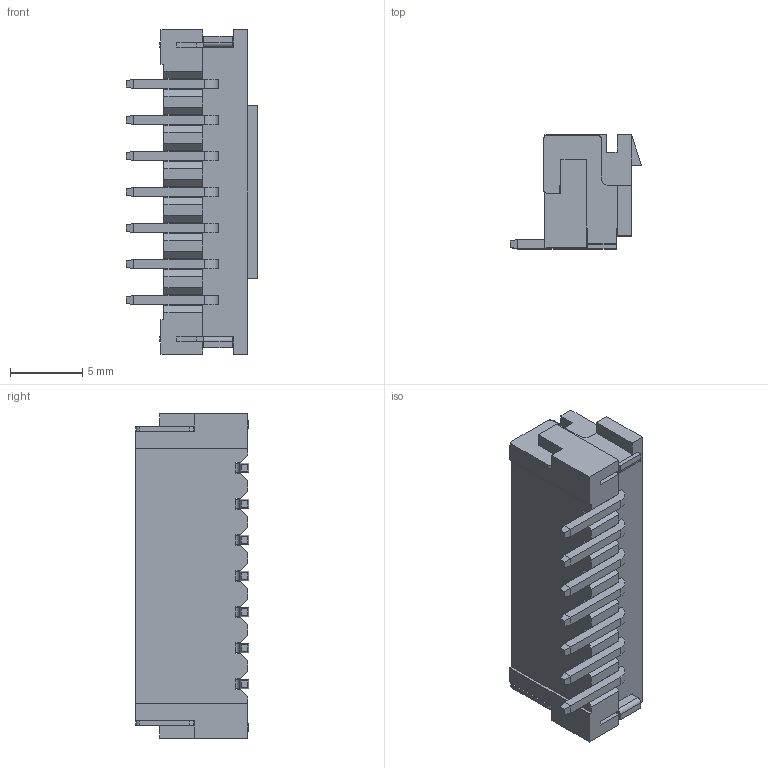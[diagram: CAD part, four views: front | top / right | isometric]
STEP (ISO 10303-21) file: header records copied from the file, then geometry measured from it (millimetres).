
FILE_DESCRIPTION(('CATIA V5 STEP Exchange'),'2;1');
FILE_NAME('Z:\3D文件\小覃\条形连接器-小黄\XHB\NALT\HC-XHB-7ALT-05(2.50 单排 立贴-HCTL).stp','2025-01-15T01:04:37+00:00',('none'),('none'),'CATIA Version 5 Release 20 GA (IN-10)','CATIA V5 STEP AP203','none');
FILE_SCHEMA(('CONFIG_CONTROL_DESIGN'));
Length unit declared in the file: millimetre
Products named in the file (1): 产品1
Assembly tree (10 placements, depth 2):
  产品1
    #58  x7
    #549
    #1374
    #2199
Bounding box: 9.1 x 7.9 x 22.5 mm (x, y, z)
Volume: 499.1 mm3; surface area: 1359.9 mm2
Topology: 10 solids, 10 shells, 316 faces, 830 edges, 534 vertices
Faces by surface type: plane 290, cylinder 26
Entity records: 6534 total; most frequent: ORIENTED_EDGE 1180, CARTESIAN_POINT 1159, DIRECTION 924, EDGE_CURVE 590, VECTOR 554, LINE 554, VERTEX_POINT 390, EDGE_LOOP 222
